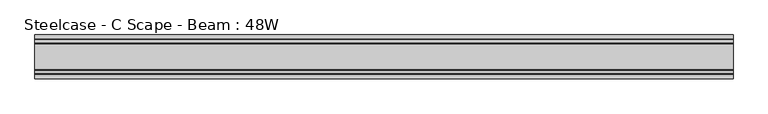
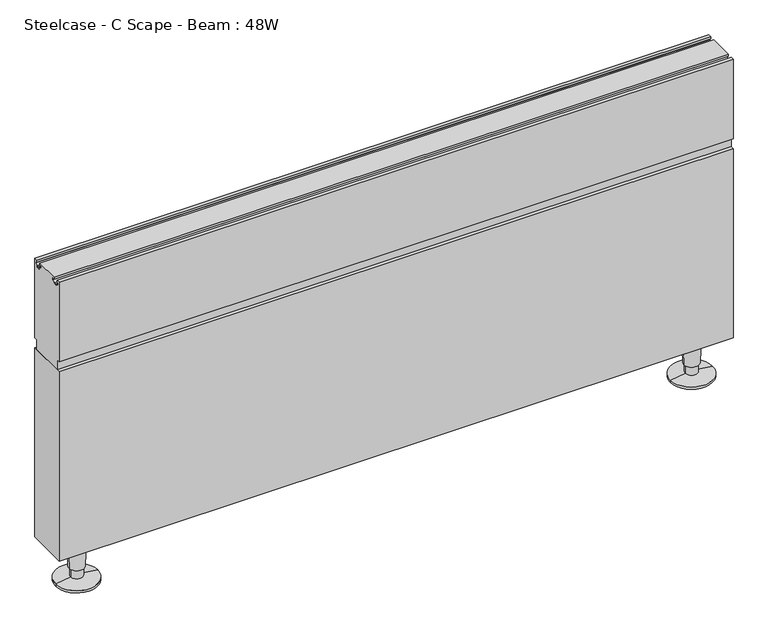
"""IFC4 building model written with IfcOpenShell, lengths in millimetres: furniture geometry, Steelcase - C Scape - Beam : 48W."""

from ifc_helpers import new_model, si_unit, frame, origin, place, context, project, spatial, polyline, circle_curve, outline, extrude, source, transform, mapped, element, save
from ifc_brep_helpers import plane_surface, cylinder_surface, revolved_surface, advanced_brep


def steelcase_c_scape_beam_48w_13bebba8(model_context):
    return source(origin(), model_context, "Body", "SolidModel", [
        advanced_brep(
        [(1179.4377849, -38.1, 25.4), (1152.0993351, -38.1, 25.4), (1150.32536, -38.1, 76.2), (1181.21176, -38.1, 76.2), (1176.7056589, -38.1, 25.4), (1154.8314611, -38.1, 25.4), (1176.7056589, -38.1, 8.099626), (1154.8314611, -38.1, 8.099626), (1203.8793277, -38.1, 4.2806159), (1127.6577923, -38.1, 4.2806159), (1203.8793277, -38.1, 0.0), (1127.6577923, -38.1, 0.0), (1165.76856, -38.1, 0.0), (1165.76856, -38.1, 76.2)],
        [
            (0, 1, circle_curve(frame((1165.76856, -38.1, 25.4), z_axis=(0.0, 0.0, 1.0), x_axis=(-1.0, 0.0, 0.0)), 13.6692249)),
            (1, 2),
            (2, 3, circle_curve(frame((1165.76856, -38.1, 76.2), z_axis=(0.0, 0.0, -1.0), x_axis=(-1.0, 0.0, 0.0)), 15.4432)),
            (3, 0),
            (1, 0, circle_curve(frame((1165.76856, -38.1, 25.4), z_axis=(0.0, 0.0, 1.0), x_axis=(-1.0, 0.0, 0.0)), 13.6692249)),
            (3, 2, circle_curve(frame((1165.76856, -38.1, 76.2), z_axis=(0.0, 0.0, -1.0), x_axis=(-1.0, 0.0, 0.0)), 15.4432)),
            (4, 5, circle_curve(frame((1165.76856, -38.1, 25.4), z_axis=(0.0, 0.0, 1.0), x_axis=(-1.0, 0.0, 0.0)), 10.9370989)),
            (5, 1),
            (0, 4),
            (5, 4, circle_curve(frame((1165.76856, -38.1, 25.4), z_axis=(0.0, 0.0, 1.0), x_axis=(-1.0, 0.0, 0.0)), 10.9370989)),
            (6, 7, circle_curve(frame((1165.76856, -38.1, 8.099626), z_axis=(0.0, 0.0, 1.0), x_axis=(-1.0, 0.0, 0.0)), 10.9370989)),
            (7, 5),
            (4, 6),
            (7, 6, circle_curve(frame((1165.76856, -38.1, 8.099626), z_axis=(0.0, 0.0, 1.0), x_axis=(-1.0, 0.0, 0.0)), 10.9370989)),
            (8, 9, circle_curve(frame((1165.76856, -38.1, 4.2806159), z_axis=(0.0, 0.0, 1.0), x_axis=(-1.0, 0.0, 0.0)), 38.1107677)),
            (9, 7),
            (6, 8),
            (9, 8, circle_curve(frame((1165.76856, -38.1, 4.2806159), z_axis=(0.0, 0.0, 1.0), x_axis=(-1.0, 0.0, 0.0)), 38.1107677)),
            (10, 11, circle_curve(frame((1165.76856, -38.1, 0.0), z_axis=(0.0, 0.0, 1.0), x_axis=(-1.0, 0.0, 0.0)), 38.1107677)),
            (11, 9),
            (8, 10),
            (11, 10, circle_curve(frame((1165.76856, -38.1, 0.0), z_axis=(0.0, 0.0, 1.0), x_axis=(-1.0, 0.0, 0.0)), 38.1107677)),
            (12, 11),
            (10, 12),
            (2, 13),
            (13, 3),
        ],
        [
            revolved_surface(polyline([(1150.32536, -38.1, 76.2), (1152.0993351, -38.1, 25.4)]), (1165.76856, -38.1, 76.2), (0.0, 0.0, -1.0)),
            plane_surface(frame((1165.76856, -38.1, 25.4), z_axis=(0.0, 0.0, -1.0), x_axis=(-1.0, 0.0, 0.0))),
            cylinder_surface(frame((1165.76856, -38.1, 76.2), z_axis=(0.0, 0.0, -1.0), x_axis=(-1.0, 0.0, 0.0)), 10.9370989),
            revolved_surface(polyline([(1154.8314611, -38.1, 8.099626), (1127.6577923, -38.1, 4.2806159)]), (1165.76856, -38.1, 76.2), (0.0, 0.0, -1.0)),
            cylinder_surface(frame((1165.76856, -38.1, 76.2), z_axis=(0.0, 0.0, -1.0), x_axis=(-1.0, 0.0, 0.0)), 38.1107677),
            plane_surface(frame((1165.76856, -38.1, 0.0), z_axis=(0.0, 0.0, -1.0), x_axis=(-1.0, 0.0, 0.0))),
            plane_surface(frame((1165.76856, -38.1, 76.2), z_axis=(0.0, 0.0, 1.0), x_axis=(-1.0, 0.0, 0.0))),
        ],
        [
            (0, [[1, 2, 3, 4]]),
            (0, [[5, -4, 6, -2]]),
            (1, [[7, 8, -1, 9]]),
            (1, [[10, -9, -5, -8]]),
            (2, [[11, 12, -7, 13]]),
            (2, [[14, -13, -10, -12]]),
            (3, [[15, 16, -11, 17]]),
            (3, [[18, -17, -14, -16]]),
            (4, [[19, 20, -15, 21]]),
            (4, [[22, -21, -18, -20]]),
            (5, [[23, -19, 24]]),
            (5, [[-24, -22, -23]]),
            (6, [[-3, 25, 26]]),
            (6, [[-6, -26, -25]]),
        ],
    ),
        advanced_brep(
        [(67.1006649, -38.1, 25.4), (39.7622151, -38.1, 25.4), (37.98824, -38.1, 76.2), (68.87464, -38.1, 76.2), (64.3685389, -38.1, 25.4), (42.4943411, -38.1, 25.4), (64.3685389, -38.1, 8.099626), (42.4943411, -38.1, 8.099626), (91.5422077, -38.1, 4.2806159), (15.3206723, -38.1, 4.2806159), (91.5422077, -38.1, 0.0), (15.3206723, -38.1, 0.0), (53.43144, -38.1, 0.0), (53.43144, -38.1, 76.2)],
        [
            (0, 1, circle_curve(frame((53.43144, -38.1, 25.4), z_axis=(0.0, 0.0, 1.0), x_axis=(-1.0, 0.0, 0.0)), 13.6692249)),
            (1, 2),
            (2, 3, circle_curve(frame((53.43144, -38.1, 76.2), z_axis=(0.0, 0.0, -1.0), x_axis=(-1.0, 0.0, 0.0)), 15.4432)),
            (3, 0),
            (1, 0, circle_curve(frame((53.43144, -38.1, 25.4), z_axis=(0.0, 0.0, 1.0), x_axis=(-1.0, 0.0, 0.0)), 13.6692249)),
            (3, 2, circle_curve(frame((53.43144, -38.1, 76.2), z_axis=(0.0, 0.0, -1.0), x_axis=(-1.0, 0.0, 0.0)), 15.4432)),
            (4, 5, circle_curve(frame((53.43144, -38.1, 25.4), z_axis=(0.0, 0.0, 1.0), x_axis=(-1.0, 0.0, 0.0)), 10.9370989)),
            (5, 1),
            (0, 4),
            (5, 4, circle_curve(frame((53.43144, -38.1, 25.4), z_axis=(0.0, 0.0, 1.0), x_axis=(-1.0, 0.0, 0.0)), 10.9370989)),
            (6, 7, circle_curve(frame((53.43144, -38.1, 8.099626), z_axis=(0.0, 0.0, 1.0), x_axis=(-1.0, 0.0, 0.0)), 10.9370989)),
            (7, 5),
            (4, 6),
            (7, 6, circle_curve(frame((53.43144, -38.1, 8.099626), z_axis=(0.0, 0.0, 1.0), x_axis=(-1.0, 0.0, 0.0)), 10.9370989)),
            (8, 9, circle_curve(frame((53.43144, -38.1, 4.2806159), z_axis=(0.0, 0.0, 1.0), x_axis=(-1.0, 0.0, 0.0)), 38.1107677)),
            (9, 7),
            (6, 8),
            (9, 8, circle_curve(frame((53.43144, -38.1, 4.2806159), z_axis=(0.0, 0.0, 1.0), x_axis=(-1.0, 0.0, 0.0)), 38.1107677)),
            (10, 11, circle_curve(frame((53.43144, -38.1, 0.0), z_axis=(0.0, 0.0, 1.0), x_axis=(-1.0, 0.0, 0.0)), 38.1107677)),
            (11, 9),
            (8, 10),
            (11, 10, circle_curve(frame((53.43144, -38.1, 0.0), z_axis=(0.0, 0.0, 1.0), x_axis=(-1.0, 0.0, 0.0)), 38.1107677)),
            (12, 11),
            (10, 12),
            (2, 13),
            (13, 3),
        ],
        [
            revolved_surface(polyline([(37.98824, -38.1, 76.2), (39.7622151, -38.1, 25.4)]), (53.43144, -38.1, 76.2), (0.0, 0.0, -1.0)),
            plane_surface(frame((53.43144, -38.1, 25.4), z_axis=(0.0, 0.0, -1.0), x_axis=(-1.0, 0.0, 0.0))),
            cylinder_surface(frame((53.43144, -38.1, 76.2), z_axis=(0.0, 0.0, -1.0), x_axis=(-1.0, 0.0, 0.0)), 10.9370989),
            revolved_surface(polyline([(42.4943411, -38.1, 8.099626), (15.3206723, -38.1, 4.2806159)]), (53.43144, -38.1, 76.2), (0.0, 0.0, -1.0)),
            cylinder_surface(frame((53.43144, -38.1, 76.2), z_axis=(0.0, 0.0, -1.0), x_axis=(-1.0, 0.0, 0.0)), 38.1107677),
            plane_surface(frame((53.43144, -38.1, 0.0), z_axis=(0.0, 0.0, -1.0), x_axis=(-1.0, 0.0, 0.0))),
            plane_surface(frame((53.43144, -38.1, 76.2), z_axis=(0.0, 0.0, 1.0), x_axis=(-1.0, 0.0, 0.0))),
        ],
        [
            (0, [[1, 2, 3, 4]]),
            (0, [[5, -4, 6, -2]]),
            (1, [[7, 8, -1, 9]]),
            (1, [[10, -9, -5, -8]]),
            (2, [[11, 12, -7, 13]]),
            (2, [[14, -13, -10, -12]]),
            (3, [[15, 16, -11, 17]]),
            (3, [[18, -17, -14, -16]]),
            (4, [[19, 20, -15, 21]]),
            (4, [[22, -21, -18, -20]]),
            (5, [[23, -19, 24]]),
            (5, [[-24, -22, -23]]),
            (6, [[-3, 25, 26]]),
            (6, [[-6, -26, -25]]),
        ],
    ),
        extrude(outline(polyline([(1219.2, 0.0), (1219.2, -76.2), (0.0, -76.2), (0.0, 0.0), (1219.2, 0.0)])), frame((0.0, 0.0, 76.2), z_axis=(0.0, 0.0, 1.0), x_axis=(1.0, 0.0, 0.0)), (0.0, 0.0, 1.0), 361.95),
        extrude(outline(polyline([(-60.3249516, 609.6), (-15.8749758, 609.6), (-15.8749758, 605.7899855), (-19.6849903, 605.7899855), (-19.6849903, 601.9800073), (-15.3670126, 599.4869908), (-14.2747828, 599.4869908), (-14.2747828, 597.1539937), (-7.924807, 597.1539937), (-7.924807, 599.4435342), (-6.8325771, 599.4435342), (-2.5399612, 601.9800073), (-2.5399612, 605.7899855), (-6.3499758, 605.7899855), (-6.3499758, 609.6), (0.0, 609.6), (0.0, 457.2), (-6.3499758, 457.2), (-6.3499758, 438.15), (-69.8499516, 438.15), (-69.8499516, 457.2), (-76.2, 457.2), (-76.2, 609.6), (-69.8499516, 609.6), (-69.8499516, 605.7899855), (-73.6599661, 605.7899855), (-73.6599661, 601.9800073), (-69.3419884, 599.4869908), (-68.2497585, 599.4869908), (-68.2497585, 597.1539937), (-61.8997828, 597.1539937), (-61.8997828, 599.4435342), (-60.8075529, 599.4435342), (-56.514937, 601.9800073), (-56.514937, 605.7899855), (-60.3249516, 605.7899855), (-60.3249516, 609.6)])), frame((0.0, 0.0, 0.0), z_axis=(1.0, 0.0, 0.0), x_axis=(0.0, 1.0, 0.0)), (0.0, 0.0, 1.0), 1219.2),
    ])


if __name__ == "__main__":
    model = new_model("IFC4")
    model_context = context("Model", 3, world=origin())
    ifc_project = project(units=[si_unit("LENGTHUNIT", "METRE", prefix="MILLI")], contexts=[model_context])
    site = spatial("IfcSite", under=ifc_project)
    building = spatial("IfcBuilding", under=site)
    placement = place(None, origin())
    steelcase_c_scape_beam_48w_shape = steelcase_c_scape_beam_48w_13bebba8(model_context)
    element("IfcFurniture", 1, ObjectType="Steelcase - C Scape - Beam : 48W", at=placement, inside=building, context=model_context, shape_type="MappedRepresentation", body=[
        mapped(steelcase_c_scape_beam_48w_shape, transform((0.0, 0.0, 0.0), x_axis=(1.0, 0.0, 0.0), y_axis=(0.0, 1.0, 0.0), z_axis=(0.0, 0.0, 1.0))),
    ])
    save(model, "model.ifc")
